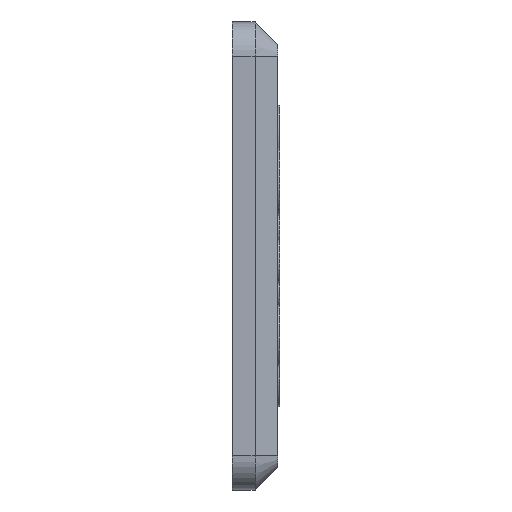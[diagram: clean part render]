
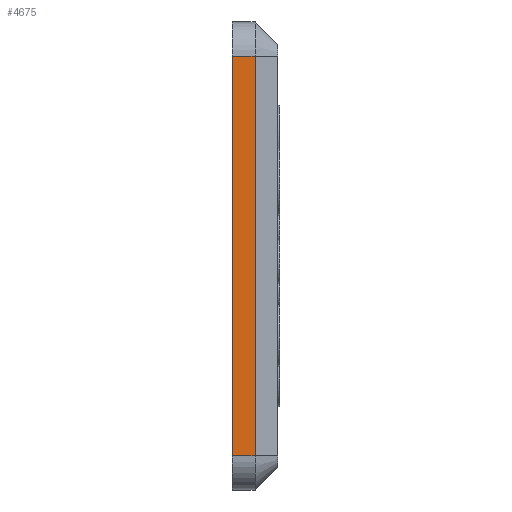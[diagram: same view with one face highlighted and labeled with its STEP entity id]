
A CAD part, left-side view. The second image highlights one B-rep face of the part: STEP entity #4675.
In plain terms, the highlighted planar face has unit normal (-1, 0, 0).
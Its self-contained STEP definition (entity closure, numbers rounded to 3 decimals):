
#321 = EDGE_CURVE ( 'NONE', #2130, #2146, #2443, .T. ) ;
#358 = EDGE_CURVE ( 'NONE', #2136, #2130, #2488, .T. ) ;
#373 = EDGE_CURVE ( 'NONE', #2137, #2146, #2506, .T. ) ;
#764 = EDGE_CURVE ( 'NONE', #2136, #2137, #2610, .T. ) ;
#990 = CARTESIAN_POINT ( 'NONE',  ( 0., 4., -6. ) ) ;
#1022 = DIRECTION ( 'NONE',  ( 0., 0., 1. ) ) ;
#1081 = ORIENTED_EDGE ( 'NONE', *, *, #358, .T. ) ;
#1117 = ORIENTED_EDGE ( 'NONE', *, *, #764, .F. ) ;
#1183 = ORIENTED_EDGE ( 'NONE', *, *, #321, .T. ) ;
#1289 = ORIENTED_EDGE ( 'NONE', *, *, #373, .F. ) ;
#1334 = DIRECTION ( 'NONE',  ( 0., 0., 1. ) ) ;
#1335 = CARTESIAN_POINT ( 'NONE',  ( 0., 0., -6. ) ) ;
#2130 = VERTEX_POINT ( 'NONE', #5723 ) ;
#2136 = VERTEX_POINT ( 'NONE', #6096 ) ;
#2137 = VERTEX_POINT ( 'NONE', #5810 ) ;
#2146 = VERTEX_POINT ( 'NONE', #5764 ) ;
#2443 = LINE ( 'NONE', #1335, #2446 ) ;
#2446 = VECTOR ( 'NONE', #1334, 1000. ) ;
#2488 = LINE ( 'NONE', #5098, #2490 ) ;
#2490 = VECTOR ( 'NONE', #5089, 1000. ) ;
#2506 = LINE ( 'NONE', #5106, #2508 ) ;
#2508 = VECTOR ( 'NONE', #4976, 1000. ) ;
#2610 = LINE ( 'NONE', #990, #2613 ) ;
#2613 = VECTOR ( 'NONE', #1022, 1000. ) ;
#2964 = FACE_OUTER_BOUND ( 'NONE', #4464, .T. ) ;
#4030 = AXIS2_PLACEMENT_3D ( 'NONE', #4302, #4315, #4349 ) ;
#4302 = CARTESIAN_POINT ( 'NONE',  ( 0., 4., -6. ) ) ;
#4315 = DIRECTION ( 'NONE',  ( 1., 0., 0. ) ) ;
#4349 = DIRECTION ( 'NONE',  ( 0., 0., -1. ) ) ;
#4353 = PLANE ( 'NONE',  #4030 ) ;
#4464 = EDGE_LOOP ( 'NONE', ( #1081, #1183, #1289, #1117 ) ) ;
#4675 = ADVANCED_FACE ( 'NONE', ( #2964 ), #4353, .F. ) ;
#4976 = DIRECTION ( 'NONE',  ( 0., -1., 0. ) ) ;
#5089 = DIRECTION ( 'NONE',  ( 0., -1., 0. ) ) ;
#5098 = CARTESIAN_POINT ( 'NONE',  ( 0., 4., -76. ) ) ;
#5106 = CARTESIAN_POINT ( 'NONE',  ( 0., 4., -6. ) ) ;
#5723 = CARTESIAN_POINT ( 'NONE',  ( 0., 0., -76. ) ) ;
#5764 = CARTESIAN_POINT ( 'NONE',  ( 0., 0., -6. ) ) ;
#5810 = CARTESIAN_POINT ( 'NONE',  ( 0., 4., -6. ) ) ;
#6096 = CARTESIAN_POINT ( 'NONE',  ( 0., 4., -76. ) ) ;
